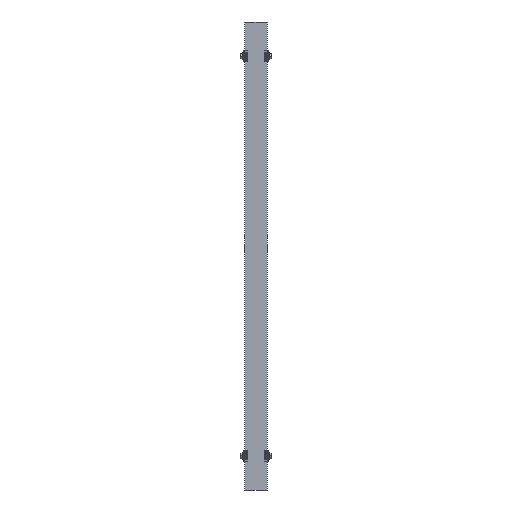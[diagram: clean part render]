
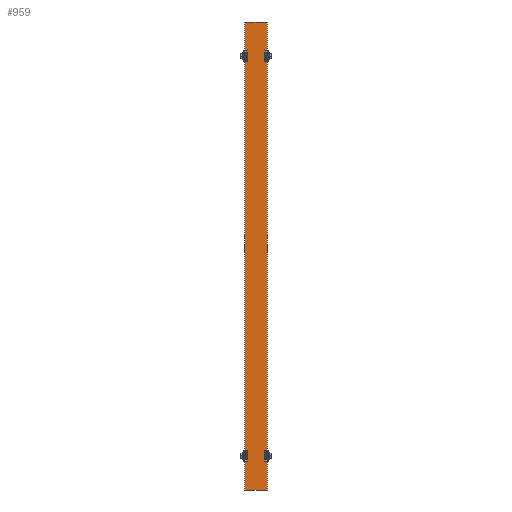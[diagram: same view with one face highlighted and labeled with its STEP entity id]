
A CAD part, front view. The second image highlights one B-rep face of the part: STEP entity #959.
In plain terms, the highlighted planar face has unit normal (0, -1, 0).
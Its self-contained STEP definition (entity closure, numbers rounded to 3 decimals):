
#86=DIRECTION('',(0.,0.,1.));
#87=VECTOR('',#86,686.);
#88=CARTESIAN_POINT('',(-16.6,0.,-343.));
#89=LINE('',#88,#87);
#93=DIRECTION('',(1.,0.,0.));
#94=VECTOR('',#93,33.2);
#95=CARTESIAN_POINT('',(-16.6,0.,343.));
#96=LINE('',#95,#94);
#100=DIRECTION('',(0.,0.,-1.));
#101=VECTOR('',#100,686.);
#102=CARTESIAN_POINT('',(16.6,0.,343.));
#103=LINE('',#102,#101);
#107=DIRECTION('',(-1.,0.,0.));
#108=VECTOR('',#107,33.2);
#109=CARTESIAN_POINT('',(16.6,0.,-343.));
#110=LINE('',#109,#108);
#808=CARTESIAN_POINT('',(-16.6,0.,-343.));
#809=CARTESIAN_POINT('',(-16.6,0.,343.));
#810=VERTEX_POINT('',#808);
#811=VERTEX_POINT('',#809);
#812=CARTESIAN_POINT('',(16.6,0.,343.));
#813=VERTEX_POINT('',#812);
#814=CARTESIAN_POINT('',(16.6,0.,-343.));
#815=VERTEX_POINT('',#814);
#944=CARTESIAN_POINT('',(0.,0.,0.));
#945=DIRECTION('',(0.,1.,0.));
#946=DIRECTION('',(1.,0.,0.));
#947=AXIS2_PLACEMENT_3D('',#944,#945,#946);
#948=PLANE('',#947);
#950=ORIENTED_EDGE('',*,*,#949,.T.);
#952=ORIENTED_EDGE('',*,*,#951,.T.);
#954=ORIENTED_EDGE('',*,*,#953,.T.);
#956=ORIENTED_EDGE('',*,*,#955,.T.);
#957=EDGE_LOOP('',(#950,#952,#954,#956));
#958=FACE_OUTER_BOUND('',#957,.F.);
#959=ADVANCED_FACE('',(#958),#948,.F.);
#949=EDGE_CURVE('',#810,#811,#89,.T.);
#951=EDGE_CURVE('',#811,#813,#96,.T.);
#953=EDGE_CURVE('',#813,#815,#103,.T.);
#955=EDGE_CURVE('',#815,#810,#110,.T.);
